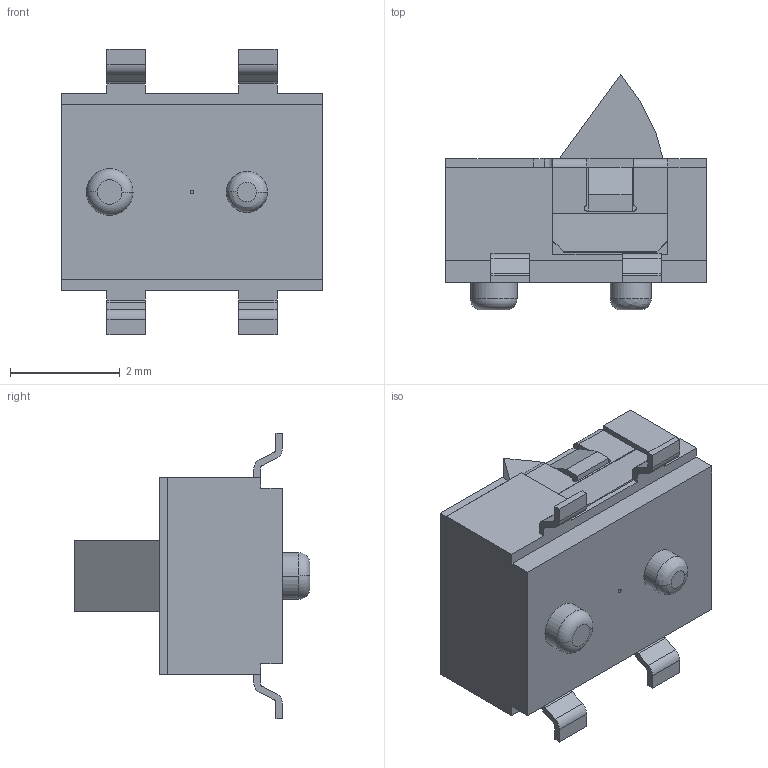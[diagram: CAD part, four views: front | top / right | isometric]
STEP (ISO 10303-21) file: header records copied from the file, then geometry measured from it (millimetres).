
FILE_DESCRIPTION((''),'2;1');
FILE_NAME('JJA3647-L0371-D-1-105_ASM','2026-05-18T10:48:32',('Admin'),(''),'CREO PARAMETRIC BY PTC INC, 2019224','CREO PARAMETRIC BY PTC INC, 2019224','');
FILE_SCHEMA(('AUTOMOTIVE_DESIGN { 1 0 10303 214 1 1 1 1 }'));
Length unit declared in the file: millimetre
Products named in the file (3): JJA3647-L0371-D-1-105_01; JJA3647-L0371-D-1-105_02; JJA3647-L0371-D-1-105_ASM
Assembly tree (2 placements, depth 2):
  JJA3647-L0371-D-1-105_ASM
    JJA3647-L0371-D-1-105_01
    JJA3647-L0371-D-1-105_02
Bounding box: 4.75 x 4.3 x 5.2 mm (x, y, z)
Volume: 39.4 mm3; surface area: 129.1 mm2
Topology: 2 solids, 3 shells, 168 faces, 450 edges, 290 vertices
Faces by surface type: plane 127, cylinder 35, bspline 4, torus 2
Entity records: 6948 total; most frequent: CARTESIAN_POINT 1077, ORIENTED_EDGE 882, DIRECTION 874, EDGE_CURVE 443, VECTOR 366, LINE 366, PRESENTATION_STYLE_ASSIGNMENT 331, STYLED_ITEM 281
